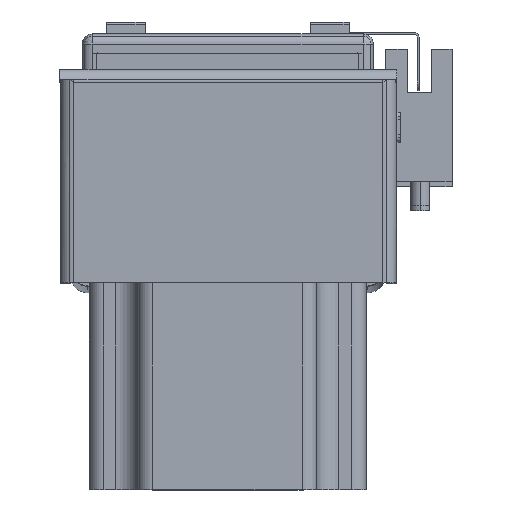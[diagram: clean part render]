
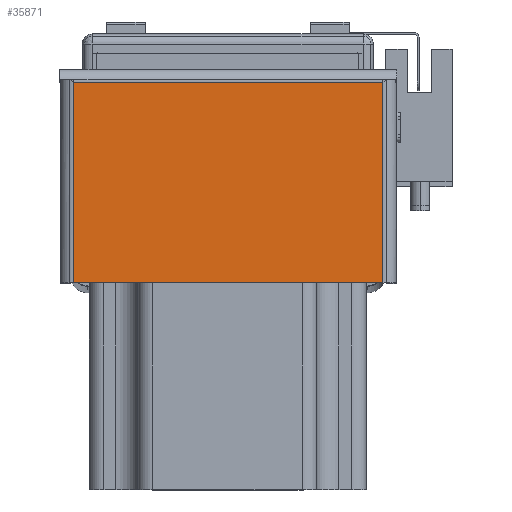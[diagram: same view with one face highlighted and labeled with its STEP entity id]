
A CAD part, top view. The second image highlights one B-rep face of the part: STEP entity #35871.
In plain terms, the highlighted planar face has unit normal (0, 0, 1) as drawn and (1, 0, 0) by its records, which use the part's own axes.
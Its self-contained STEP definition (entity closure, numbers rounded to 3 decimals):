
#362 = ORIENTED_EDGE ( 'NONE', *, *, #27342, .F. ) ;
#368 = ORIENTED_EDGE ( 'NONE', *, *, #27490, .T. ) ;
#399 = ORIENTED_EDGE ( 'NONE', *, *, #27493, .T. ) ;
#410 = ORIENTED_EDGE ( 'NONE', *, *, #27503, .T. ) ;
#5282 = EDGE_LOOP ( 'NONE', ( #368, #410, #399, #362 ) ) ;
#7693 = CARTESIAN_POINT ( 'NONE',  ( 2., 41.263, 31.863 ) ) ;
#7720 = CARTESIAN_POINT ( 'NONE',  ( 2., 0., 31.863 ) ) ;
#7732 = CARTESIAN_POINT ( 'NONE',  ( 2., 41.263, -31.863 ) ) ;
#7787 = CARTESIAN_POINT ( 'NONE',  ( 2., 0., -31.863 ) ) ;
#17618 = DIRECTION ( 'NONE',  ( 0., 0., 1. ) ) ;
#17619 = CARTESIAN_POINT ( 'NONE',  ( 2., 0., -32.6 ) ) ;
#17621 = DIRECTION ( 'NONE',  ( 0., 0., -1. ) ) ;
#17623 = CARTESIAN_POINT ( 'NONE',  ( 2., 42., 31.863 ) ) ;
#17624 = CARTESIAN_POINT ( 'NONE',  ( 2., 41.263, -31.863 ) ) ;
#17644 = DIRECTION ( 'NONE',  ( 0., -1., 0. ) ) ;
#19919 = AXIS2_PLACEMENT_3D ( 'NONE', #23488, #23503, #23497 ) ;
#23488 = CARTESIAN_POINT ( 'NONE',  ( 2., 42., -32.6 ) ) ;
#23497 = DIRECTION ( 'NONE',  ( 0., 0., 1. ) ) ;
#23503 = DIRECTION ( 'NONE',  ( -1., 0., 0. ) ) ;
#23530 = PLANE ( 'NONE',  #19919 ) ;
#24175 = FACE_OUTER_BOUND ( 'NONE', #5282, .T. ) ;
#27342 = EDGE_CURVE ( 'NONE', #32976, #33043, #29944, .T. ) ;
#27490 = EDGE_CURVE ( 'NONE', #32976, #32977, #30141, .T. ) ;
#27493 = EDGE_CURVE ( 'NONE', #32969, #33043, #30220, .T. ) ;
#27503 = EDGE_CURVE ( 'NONE', #32977, #32969, #30175, .T. ) ;
#29942 = VECTOR ( 'NONE', #33793, 1000. ) ;
#29944 = LINE ( 'NONE', #33798, #29942 ) ;
#30141 = LINE ( 'NONE', #17624, #30144 ) ;
#30144 = VECTOR ( 'NONE', #17618, 1000. ) ;
#30175 = LINE ( 'NONE', #17623, #30176 ) ;
#30176 = VECTOR ( 'NONE', #17644, 1000. ) ;
#30220 = LINE ( 'NONE', #17619, #30232 ) ;
#30232 = VECTOR ( 'NONE', #17621, 1000. ) ;
#32969 = VERTEX_POINT ( 'NONE', #7720 ) ;
#32976 = VERTEX_POINT ( 'NONE', #7732 ) ;
#32977 = VERTEX_POINT ( 'NONE', #7693 ) ;
#33043 = VERTEX_POINT ( 'NONE', #7787 ) ;
#33793 = DIRECTION ( 'NONE',  ( 0., -1., 0. ) ) ;
#33798 = CARTESIAN_POINT ( 'NONE',  ( 2., 42., -31.863 ) ) ;
#35871 = ADVANCED_FACE ( 'NONE', ( #24175 ), #23530, .F. ) ;
